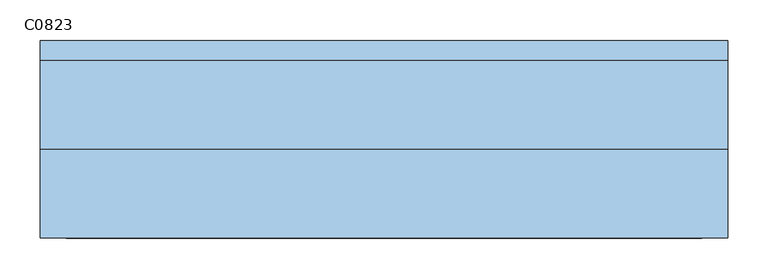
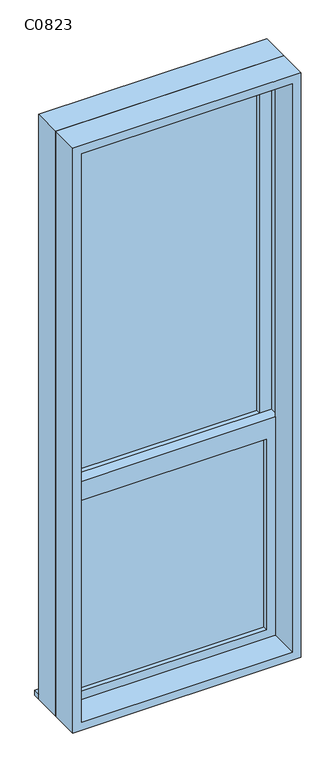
"""IFC4 building model written with IfcOpenShell, lengths in millimetres: window geometry, 上下拉窗1 : C0823."""

from ifc_helpers import new_model, si_unit, frame, origin, place, context, project, spatial, polyline, outline, extrude, source, transform, mapped, element, save


def c0823_02c6a616(model_context):
    return source(origin(), model_context, "Body", "SweptSolid", [
        extrude(outline(polyline([(-360.0, 72.2615397), (360.0, 72.2615397), (360.0, 62.2615397), (-360.0, 62.2615397), (-360.0, 72.2615397)])), frame((0.0, 0.0, 1190.0), z_axis=(0.0, 0.0, 1.0), x_axis=(1.0, 0.0, 0.0)), (0.0, 0.0, 1.0), 1345.0),
        extrude(outline(polyline([(-360.0, 27.2615397), (360.0, 27.2615397), (360.0, 17.2615397), (-360.0, 17.2615397), (-360.0, 27.2615397)])), frame((0.0, 0.0, 365.0), z_axis=(0.0, 0.0, 1.0), x_axis=(1.0, 0.0, 0.0)), (0.0, 0.0, 1.0), 749.4323551),
        extrude(outline(polyline([(1190.0, -405.0), (320.0, -405.0), (320.0, 405.0), (1190.0, 405.0), (1190.0, -405.0)]), holes=[polyline([(1114.4323551, -360.0), (1114.4323551, 360.0), (365.0, 360.0), (365.0, -360.0), (1114.4323551, -360.0)])]), frame((0.0, -0.2384603, 0.0), z_axis=(0.0, 1.0, 0.0), x_axis=(0.0, 0.0, 1.0)), (0.0, 0.0, 1.0), 45.0),
        extrude(outline(polyline([(2580.0, -405.0), (1132.5, -405.0), (1132.5, 405.0), (2580.0, 405.0), (2580.0, -405.0)]), holes=[polyline([(2535.0, -360.0), (2535.0, 360.0), (1190.0, 360.0), (1190.0, -360.0), (2535.0, -360.0)])]), frame((0.0, 44.7615397, 0.0), z_axis=(0.0, 1.0, 0.0), x_axis=(0.0, 0.0, 1.0)), (0.0, 0.0, 1.0), 45.0),
        extrude(outline(polyline([(2600.0, -425.0), (300.0, -425.0), (300.0, 425.0), (2600.0, 425.0), (2600.0, -425.0)]), holes=[polyline([(2568.0, -393.0), (2568.0, 393.0), (332.0, 393.0), (332.0, -393.0), (2568.0, -393.0)])]), frame((0.0, -110.2384603, 0.0), z_axis=(0.0, 1.0, 0.0), x_axis=(0.0, 0.0, 1.0)), (0.0, 0.0, 1.0), 110.0),
        extrude(outline(polyline([(2600.0, 425.0), (2600.0, -425.0), (300.0, -425.0), (300.0, 425.0), (2600.0, 425.0)]), holes=[polyline([(2580.0, 405.0), (320.0, 405.0), (320.0, -405.0), (2580.0, -405.0), (2580.0, 405.0)])]), frame((0.0, -0.2384603, 0.0), z_axis=(0.0, 1.0, 0.0), x_axis=(0.0, 0.0, 1.0)), (0.0, 0.0, 1.0), 110.0),
        extrude(outline(polyline([(-425.0, 134.7615397), (425.0, 134.7615397), (425.0, 109.7615397), (-425.0, 109.7615397), (-425.0, 134.7615397)])), frame((0.0, 0.0, 300.0), z_axis=(0.0, 0.0, 1.0), x_axis=(1.0, 0.0, 0.0)), (0.0, 0.0, 1.0), 20.0),
    ])


if __name__ == "__main__":
    model = new_model("IFC4")
    model_context = context("Model", 3, world=origin())
    ifc_project = project(units=[si_unit("LENGTHUNIT", "METRE", prefix="MILLI")], contexts=[model_context])
    site = spatial("IfcSite", under=ifc_project)
    building = spatial("IfcBuilding", under=site)
    placement = place(None, origin())
    c0823_shape = c0823_02c6a616(model_context)
    element("IfcWindow", 1, ObjectType="上下拉窗1 : C0823", at=placement, inside=building, context=model_context, shape_type="MappedRepresentation", body=[
        mapped(c0823_shape, transform((0.0, 0.0, 0.0), x_axis=(1.0, 0.0, 0.0), y_axis=(0.0, 1.0, 0.0), z_axis=(0.0, 0.0, 1.0))),
    ])
    save(model, "model.ifc")
